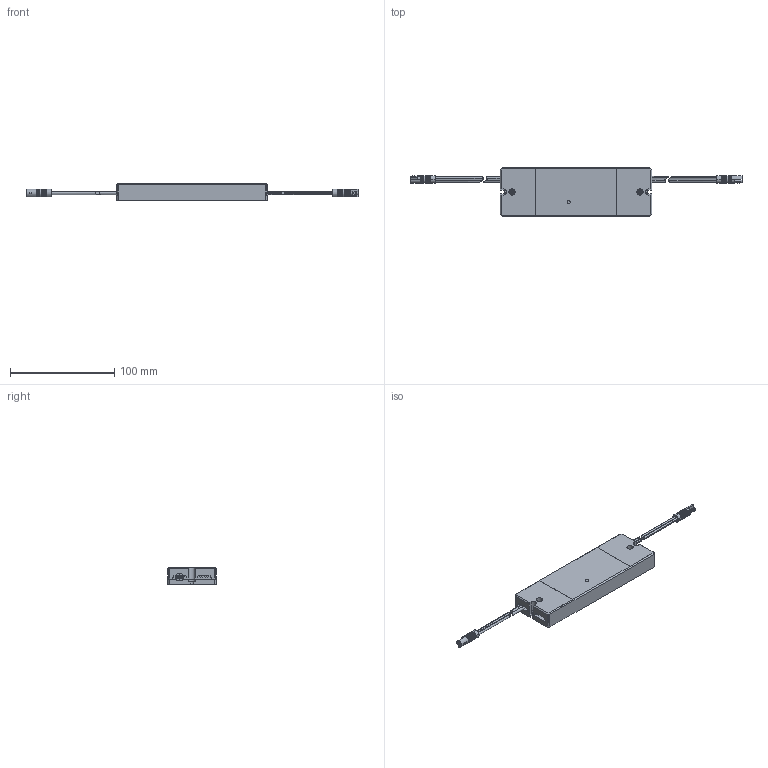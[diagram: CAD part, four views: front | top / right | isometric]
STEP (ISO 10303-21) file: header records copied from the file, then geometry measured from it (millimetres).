
FILE_DESCRIPTION (( 'STEP AP203' ), '1' );
FILE_NAME ('Smartempfänger_24VDC_24.STEP', '2024-12-02T09:08:18', ( '' ), ( '' ), 'SwSTEP 2.0', 'SolidWorks 2023', '' );
FILE_SCHEMA (( 'CONFIG_CONTROL_DESIGN' ));
Length unit declared in the file: millimetre
Products named in the file (3): Smartempfänger_24VDC_24; MP2_DMA_2019_0,824mm²_LTG_EVG_gebr.; 3110001_mit_Klebeband
Assembly tree (3 placements, depth 2):
  Smartempfänger_24VDC_24
    3110001_mit_Klebeband
    MP2_DMA_2019_0,824mm²_LTG_EVG_gebr.  x2
Bounding box: 318 x 46.5 x 16 mm (x, y, z)
Volume: 107450.9 mm3; surface area: 32250.8 mm2
Topology: 7 solids, 7 shells, 754 faces, 2025 edges, 1316 vertices
Faces by surface type: plane 485, cylinder 249, cone 16, torus 4
Entity records: 17017 total; most frequent: CARTESIAN_POINT 3133, ORIENTED_EDGE 2876, DIRECTION 2766, EDGE_CURVE 1438, LINE 1074, VECTOR 1074, VERTEX_POINT 931, AXIS2_PLACEMENT_3D 846
